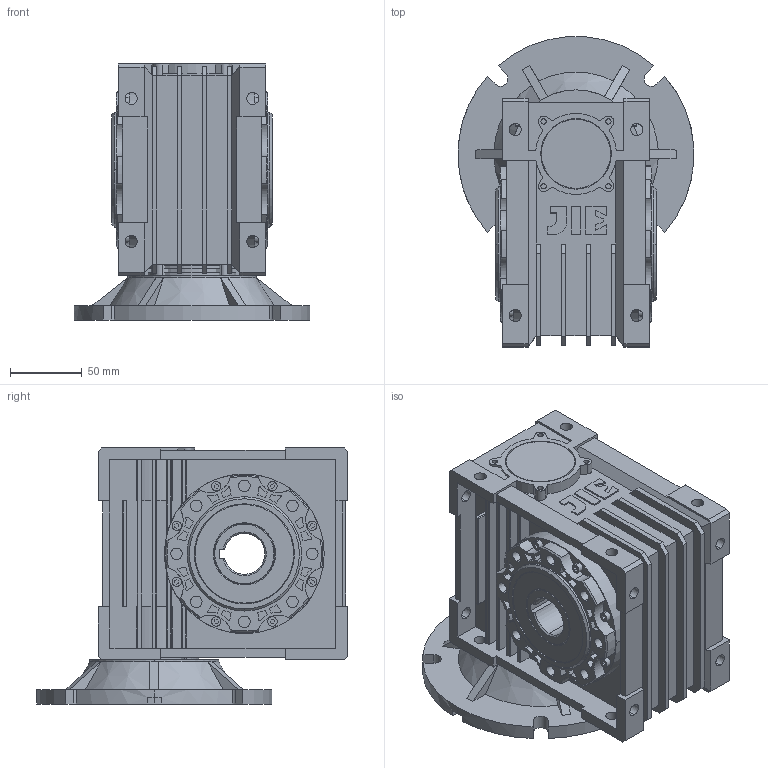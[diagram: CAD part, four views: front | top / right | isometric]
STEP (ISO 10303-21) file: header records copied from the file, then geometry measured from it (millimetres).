
FILE_DESCRIPTION (( 'STEP AP203' ), '1' );
FILE_NAME ('JRWND60-56C.STEP', '2019-10-29T02:44:47', ( 'JS280' ), ( 'Microsoft' ), 'SwSTEP 2.0', 'SolidWorks 2011', '' );
FILE_SCHEMA (( 'CONFIG_CONTROL_DESIGN' ));
Length unit declared in the file: millimetre
Products named in the file (5): JRWND60-56C; JRWND63-蚐猾; JRWND63-怀堤粣; JRWND63-11(56C-140TC)-带轴头螺栓-法兰细节未完成; JRWND63-眊极
Assembly tree (4 placements, depth 2):
  JRWND60-56C
    JRWND63-怀堤粣
    JRWND63-11(56C-140TC)-带轴头螺栓-法兰细节未完成
    JRWND63-眊极
    JRWND63-蚐猾
Bounding box: 164.98 x 217.23 x 179 mm (x, y, z)
Volume: 2216535.4 mm3; surface area: 353462.2 mm2
Topology: 4 solids, 4 shells, 1096 faces, 2897 edges, 1923 vertices
Faces by surface type: plane 636, cylinder 412, cone 48
Entity records: 34971 total; most frequent: CARTESIAN_POINT 6489, DIRECTION 5896, ORIENTED_EDGE 5794, EDGE_CURVE 2897, AXIS2_PLACEMENT_3D 2006, VERTEX_POINT 1923, VECTOR 1884, LINE 1884
